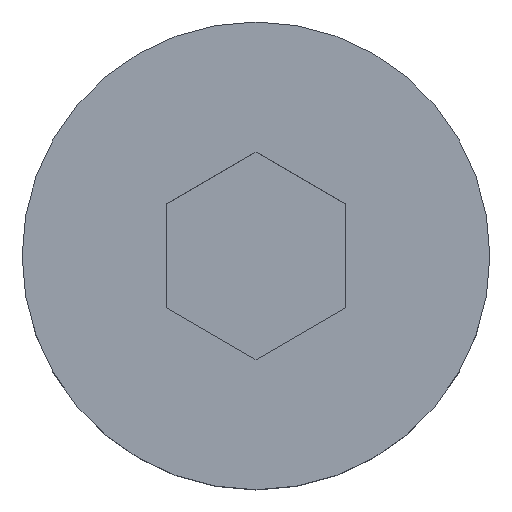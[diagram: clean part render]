
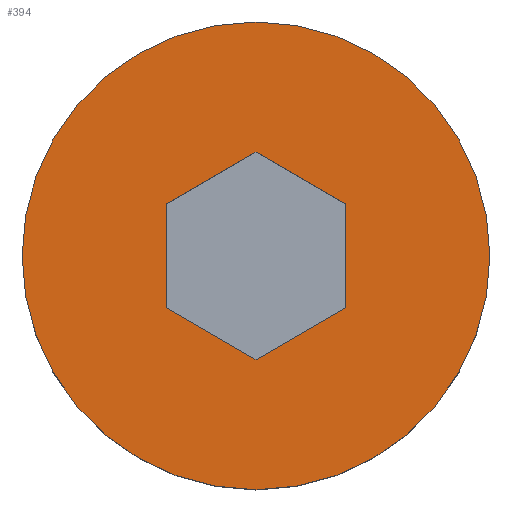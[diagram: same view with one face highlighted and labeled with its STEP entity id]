
A CAD part, top view. The second image highlights one B-rep face of the part: STEP entity #394.
In plain terms, the highlighted planar face has unit normal (0, 0, 1).
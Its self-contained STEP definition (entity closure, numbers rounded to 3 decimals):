
#48 = CARTESIAN_POINT ( 'NONE',  ( 13., 0., 8. ) ) ;
#50 = VECTOR ( 'NONE', #516, 1000. ) ;
#75 = ORIENTED_EDGE ( 'NONE', *, *, #359, .T. ) ;
#123 = ORIENTED_EDGE ( 'NONE', *, *, #534, .F. ) ;
#181 = CARTESIAN_POINT ( 'NONE',  ( -5., 0., 8. ) ) ;
#192 = EDGE_LOOP ( 'NONE', ( #368, #75 ) ) ;
#207 = CARTESIAN_POINT ( 'NONE',  ( 13., 0., 8. ) ) ;
#247 = AXIS2_PLACEMENT_3D ( 'NONE', #412, #1045, #514 ) ;
#300 = DIRECTION ( 'NONE',  ( -1., 0., 0. ) ) ;
#323 = DIRECTION ( 'NONE',  ( -0.866, -0.5, 0. ) ) ;
#328 = FACE_OUTER_BOUND ( 'NONE', #192, .T. ) ;
#334 = ORIENTED_EDGE ( 'NONE', *, *, #425, .F. ) ;
#346 = ORIENTED_EDGE ( 'NONE', *, *, #485, .F. ) ;
#358 = CIRCLE ( 'NONE', #247, 13. ) ;
#359 = EDGE_CURVE ( 'NONE', #732, #834, #646, .T. ) ;
#362 = FACE_BOUND ( 'NONE', #793, .T. ) ;
#368 = ORIENTED_EDGE ( 'NONE', *, *, #1010, .T. ) ;
#394 = ADVANCED_FACE ( 'NONE', ( #328, #362 ), #496, .F. ) ;
#412 = CARTESIAN_POINT ( 'NONE',  ( 0., 0., 8. ) ) ;
#425 = EDGE_CURVE ( 'NONE', #554, #913, #702, .T. ) ;
#433 = VECTOR ( 'NONE', #323, 1000. ) ;
#460 = DIRECTION ( 'NONE',  ( 0.866, -0.5, 0. ) ) ;
#463 = EDGE_CURVE ( 'NONE', #569, #554, #801, .T. ) ;
#468 = ORIENTED_EDGE ( 'NONE', *, *, #562, .F. ) ;
#485 = EDGE_CURVE ( 'NONE', #539, #569, #905, .T. ) ;
#496 = PLANE ( 'NONE',  #655 ) ;
#514 = DIRECTION ( 'NONE',  ( 1., 0., 0. ) ) ;
#516 = DIRECTION ( 'NONE',  ( 0., 1., 0. ) ) ;
#527 = CARTESIAN_POINT ( 'NONE',  ( 12.25, 1.299, 8. ) ) ;
#534 = EDGE_CURVE ( 'NONE', #797, #539, #737, .T. ) ;
#538 = CARTESIAN_POINT ( 'NONE',  ( 0., 0., 8. ) ) ;
#539 = VERTEX_POINT ( 'NONE', #749 ) ;
#554 = VERTEX_POINT ( 'NONE', #841 ) ;
#562 = EDGE_CURVE ( 'NONE', #815, #797, #857, .T. ) ;
#568 = AXIS2_PLACEMENT_3D ( 'NONE', #538, #1164, #635 ) ;
#569 = VERTEX_POINT ( 'NONE', #1109 ) ;
#635 = DIRECTION ( 'NONE',  ( 1., 0., 0. ) ) ;
#646 = CIRCLE ( 'NONE', #568, 13. ) ;
#655 = AXIS2_PLACEMENT_3D ( 'NONE', #207, #867, #300 ) ;
#670 = ORIENTED_EDGE ( 'NONE', *, *, #463, .F. ) ;
#690 = LINE ( 'NONE', #714, #433 ) ;
#702 = LINE ( 'NONE', #1135, #838 ) ;
#713 = CARTESIAN_POINT ( 'NONE',  ( -13., 0., 8. ) ) ;
#714 = CARTESIAN_POINT ( 'NONE',  ( 7.25, 9.959, 8. ) ) ;
#716 = CARTESIAN_POINT ( 'NONE',  ( -5., 2.887, 8. ) ) ;
#732 = VERTEX_POINT ( 'NONE', #713 ) ;
#737 = LINE ( 'NONE', #1103, #931 ) ;
#749 = CARTESIAN_POINT ( 'NONE',  ( 0., -5.774, 8. ) ) ;
#780 = DIRECTION ( 'NONE',  ( -0.866, 0.5, 0. ) ) ;
#793 = EDGE_LOOP ( 'NONE', ( #1157, #334, #670, #346, #123, #468 ) ) ;
#797 = VERTEX_POINT ( 'NONE', #1153 ) ;
#801 = LINE ( 'NONE', #1046, #50 ) ;
#815 = VERTEX_POINT ( 'NONE', #716 ) ;
#834 = VERTEX_POINT ( 'NONE', #48 ) ;
#838 = VECTOR ( 'NONE', #780, 1000. ) ;
#841 = CARTESIAN_POINT ( 'NONE',  ( 5., 2.887, 8. ) ) ;
#857 = LINE ( 'NONE', #181, #1063 ) ;
#867 = DIRECTION ( 'NONE',  ( 0., 0., -1. ) ) ;
#905 = LINE ( 'NONE', #527, #1146 ) ;
#913 = VERTEX_POINT ( 'NONE', #1132 ) ;
#922 = DIRECTION ( 'NONE',  ( 0., -1., 0. ) ) ;
#931 = VECTOR ( 'NONE', #460, 1000. ) ;
#1010 = EDGE_CURVE ( 'NONE', #834, #732, #358, .T. ) ;
#1045 = DIRECTION ( 'NONE',  ( 0., 0., 1. ) ) ;
#1046 = CARTESIAN_POINT ( 'NONE',  ( 5., 0., 8. ) ) ;
#1061 = DIRECTION ( 'NONE',  ( 0.866, 0.5, 0. ) ) ;
#1063 = VECTOR ( 'NONE', #922, 1000. ) ;
#1103 = CARTESIAN_POINT ( 'NONE',  ( 7.25, -9.959, 8. ) ) ;
#1109 = CARTESIAN_POINT ( 'NONE',  ( 5., -2.887, 8. ) ) ;
#1132 = CARTESIAN_POINT ( 'NONE',  ( 0., 5.774, 8. ) ) ;
#1135 = CARTESIAN_POINT ( 'NONE',  ( 12.25, -1.299, 8. ) ) ;
#1146 = VECTOR ( 'NONE', #1061, 1000. ) ;
#1153 = CARTESIAN_POINT ( 'NONE',  ( -5., -2.887, 8. ) ) ;
#1157 = ORIENTED_EDGE ( 'NONE', *, *, #1180, .F. ) ;
#1164 = DIRECTION ( 'NONE',  ( 0., 0., 1. ) ) ;
#1180 = EDGE_CURVE ( 'NONE', #913, #815, #690, .T. ) ;
